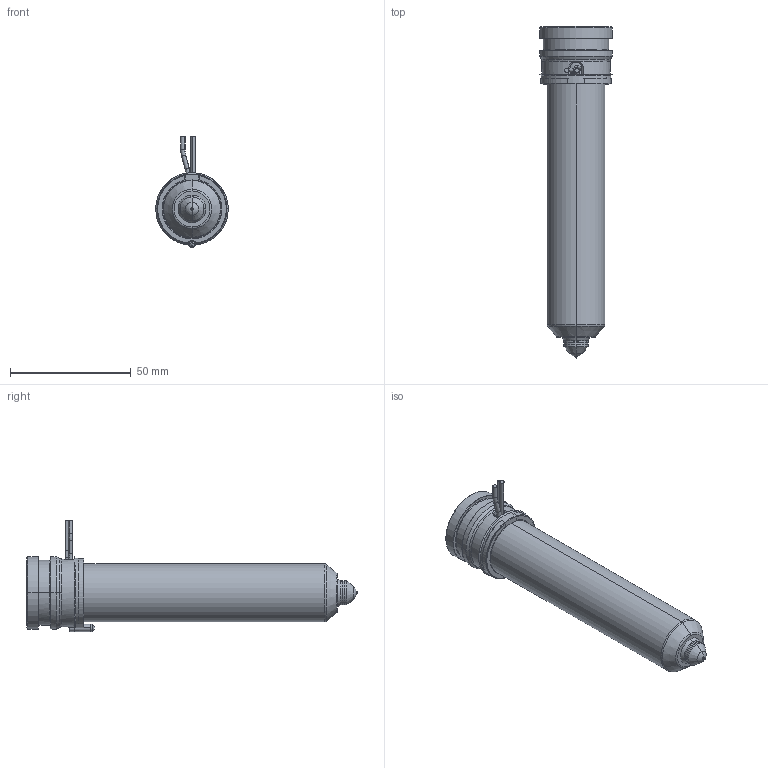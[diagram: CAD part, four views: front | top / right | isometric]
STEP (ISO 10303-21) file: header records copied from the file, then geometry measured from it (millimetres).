
FILE_DESCRIPTION((''),'2;1');
FILE_NAME('MPN-10-29-VX10-116-A','2026-02-05T12:40:55',('UPTIO'),('Thermoplay S.p.A.'),'CREO PARAMETRIC BY PTC INC, 2023494','CREO PARAMETRIC BY PTC INC, 2023494','');
FILE_SCHEMA(('CONFIG_CONTROL_DESIGN','SHAPE_APPEARANCE_LAYERS_GROUPS'));
Length unit declared in the file: millimetre
Products named in the file (1): MPN-10-29-VX10-116-A
Bounding box: 30 x 137.5 x 46 mm (x, y, z)
Volume: 42871.7 mm3; surface area: 43144.9 mm2
Topology: 2 solids, 3 shells, 557 faces, 1459 edges, 901 vertices
Faces by surface type: cylinder 182, plane 144, bspline 76, torus 72, cone 70, sphere 9, extrusion 4
Entity records: 29049 total; most frequent: CARTESIAN_POINT 12542, ORIENTED_EDGE 2906, DIRECTION 2711, EDGE_CURVE 1453, AXIS2_PLACEMENT_3D 1078, VERTEX_POINT 901, CIRCLE 600, EDGE_LOOP 586
